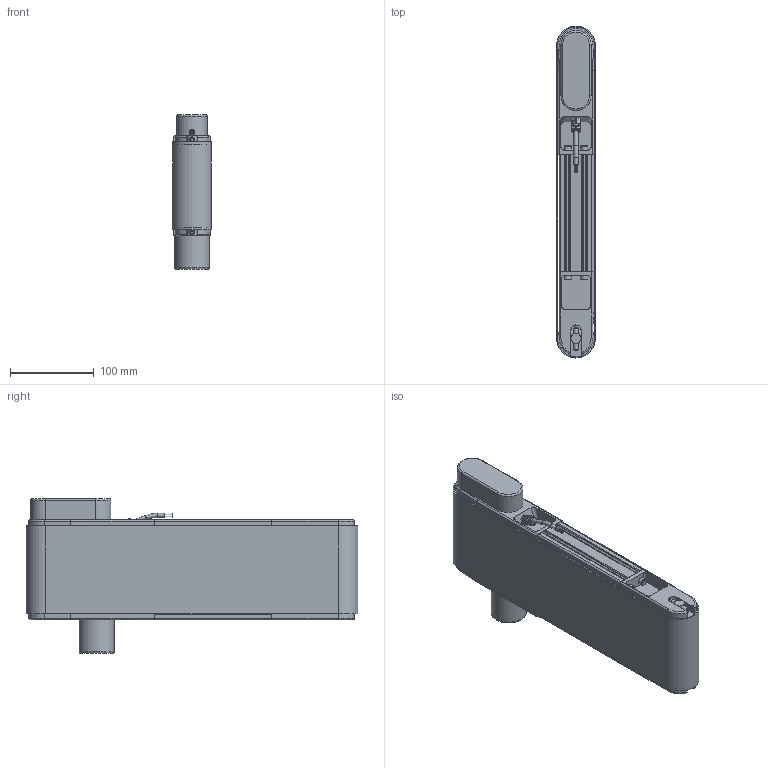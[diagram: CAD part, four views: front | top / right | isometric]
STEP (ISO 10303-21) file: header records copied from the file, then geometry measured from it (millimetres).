
FILE_DESCRIPTION(/* description */ (''),/* implementation_level */ '2;1');
FILE_NAME(/* name */ 'G:\DATEN\CAD\Förderband\Marketing\3D-Modelle (Standard)\FR-40-120-Q\FR-40-120-Q-350-K (Motorendrohr 40 mm).stp',/* time_stamp */ '2019-05-09T08:22:08+02:00',/* author */ ('melanie.ochs'),/* organization */ (''),/* preprocessor_version */ 'ST-DEVELOPER v17',/* originating_system */ 'Autodesk Inventor 2019',/* authorisation */ '');
FILE_SCHEMA (('CONFIG_CONTROL_DESIGN'));
Length unit declared in the file: millimetre
Products named in the file (1): FR-40-120-Q-350-K (Motorendrohr 40 mm)
Bounding box: 46.6 x 396.6 x 185 mm (x, y, z)
Volume: 1467492.3 mm3; surface area: 485928.6 mm2
Topology: 31 solids, 32 shells, 869 faces, 2355 edges, 1600 vertices
Faces by surface type: plane 439, cylinder 274, cone 65, bspline 61, torus 30
Full cylindrical faces by diameter (mm): 1 x6, 4 x6, 4.3 x4, 4.65 x1, 4.917 x1, 5 x11, 5.5 x8, 6 x2, 6.5 x1, 6.773 x1, 6.917 x2, 8 x7, 8.3 x8, 8.5 x8, 8.773 x1, 10 x1, 11 x1, 12 x3, 25 x2, 28 x4, 40.917 x1, 42 x1, 44 x2
Entity records: 29133 total; most frequent: CARTESIAN_POINT 6163, ORIENTED_EDGE 4674, DIRECTION 4526, EDGE_CURVE 2337, AXIS2_PLACEMENT_3D 1637, VERTEX_POINT 1600, LINE 1252, VECTOR 1252
